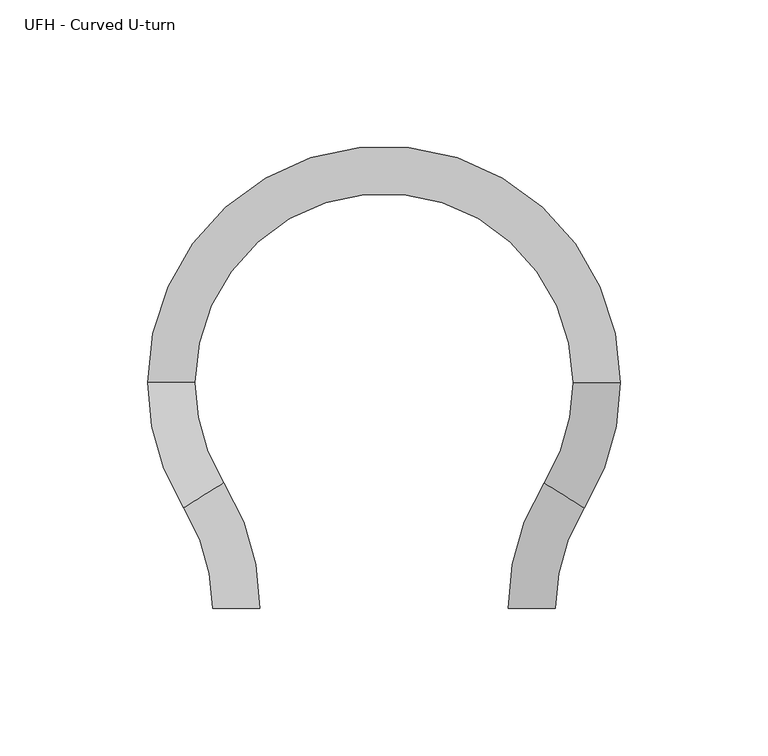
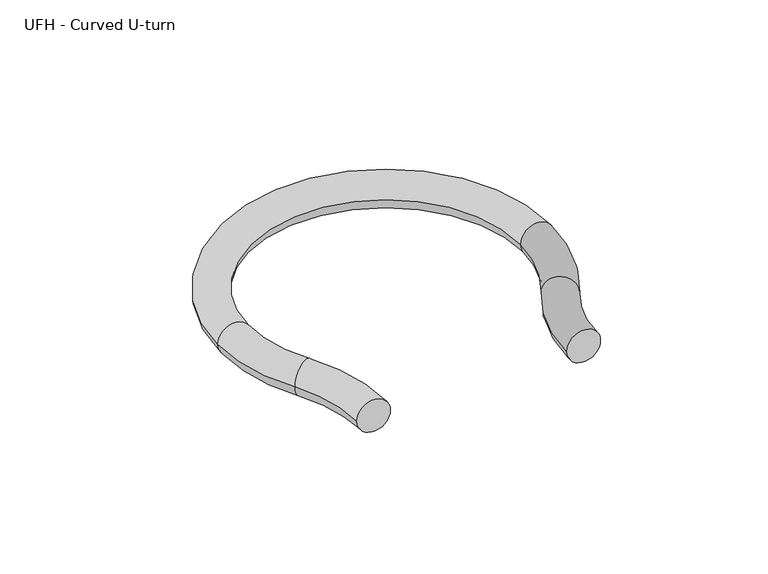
"""IFC4 building model written with IfcOpenShell, lengths in millimetres: pipe fitting geometry, UFH - Curved U-turn : Superpipe 2+ UFH Curved U-turn  - VA100."""

from ifc_helpers import new_model, si_unit, point, frame, origin, place, context, project, spatial, circle_curve, ellipse_curve, trimmed, source, transform, mapped, element, save
from ifc_brep_helpers import plane_surface, revolved_surface, advanced_brep


def ufh_curved_u_turn_f1e66ce9(model_context):
    return source(origin(), model_context, "Body", "AdvancedBrep", [
        advanced_brep(
        [(8.0, 0.0, 0.0), (-8.0, 0.0, 0.0), (-17.7777778, 33.9992738, 0.0), (-4.2222222, 42.4990922, 0.0), (-30.0, 76.498366, 0.0), (-14.0, 76.498366, 0.0), (130.0, 76.498366, 0.0), (114.0, 76.498366, 0.0), (117.7777778, 33.9992738, 0.0), (104.2222222, 42.4990922, 0.0), (92.0, 0.0, 0.0), (108.0, 0.0, 0.0)],
        [
            (0, 1, circle_curve(frame((0.0, 0.0, 0.0), z_axis=(0.0, -1.0, 0.0), x_axis=(-1.0, 0.0, 0.0)), 8.0)),
            (1, 0, circle_curve(frame((0.0, 0.0, 0.0), z_axis=(0.0, -1.0, 0.0), x_axis=(-1.0, 0.0, 0.0)), 8.0)),
            (2, 1, circle_curve(frame((-72.0, 0.0, 0.0), z_axis=(0.0, 0.0, -1.0), x_axis=(1.0, 0.0, 0.0)), 64.0)),
            (0, 3, circle_curve(frame((-72.0, 0.0, 0.0), z_axis=(0.0, 0.0, 1.0), x_axis=(1.0, 0.0, 0.0)), 80.0)),
            (3, 2, circle_curve(frame((-11.0, 38.249183, 0.0), z_axis=(0.531238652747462, -0.8472222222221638, 0.0), x_axis=(-0.8472222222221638, -0.531238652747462, 0.0)), 8.0)),
            (2, 3, circle_curve(frame((-11.0, 38.249183, 0.0), z_axis=(0.5312386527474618, -0.8472222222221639, 0.0), x_axis=(-0.8472222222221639, -0.5312386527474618, 0.0)), 8.0)),
            (4, 2, circle_curve(frame((50.0, 76.498366, 0.0), z_axis=(0.0, 0.0, 1.0), x_axis=(-0.8472222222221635, -0.5312386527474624, 0.0)), 80.0)),
            (3, 5, circle_curve(frame((50.0, 76.498366, 0.0), z_axis=(0.0, 0.0, -1.0), x_axis=(-0.8472222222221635, -0.5312386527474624, 0.0)), 64.0)),
            (5, 4, circle_curve(frame((-22.0, 76.498366, 0.0), z_axis=(0.0, -1.0, 0.0), x_axis=(-1.0, 0.0, 0.0)), 8.0)),
            (4, 5, circle_curve(frame((-22.0, 76.498366, 0.0), z_axis=(0.0, -1.0, 0.0), x_axis=(-1.0, 0.0, 0.0)), 8.0)),
            (6, 4, circle_curve(frame((50.0, 76.498366, 0.0), z_axis=(0.0, 0.0, 1.0), x_axis=(-1.0, 0.0, 0.0)), 80.0)),
            (5, 7, circle_curve(frame((50.0, 76.498366, 0.0), z_axis=(0.0, 0.0, -1.0), x_axis=(-1.0, 0.0, 0.0)), 64.0)),
            (7, 6, circle_curve(frame((122.0, 76.498366, 0.0), z_axis=(0.0, 1.0, 0.0), x_axis=(1.0, 0.0, 0.0)), 8.0)),
            (6, 7, circle_curve(frame((122.0, 76.498366, 0.0), z_axis=(0.0, 1.0, 0.0), x_axis=(1.0, 0.0, 0.0)), 8.0)),
            (8, 6, circle_curve(frame((50.0, 76.498366, 0.0), z_axis=(0.0, 0.0, 1.0), x_axis=(1.0, 0.0, 0.0)), 80.0)),
            (7, 9, circle_curve(frame((50.0, 76.498366, 0.0), z_axis=(0.0, 0.0, -1.0), x_axis=(1.0, 0.0, 0.0)), 64.0)),
            (9, 8, circle_curve(frame((111.0, 38.249183, 0.0), z_axis=(0.531238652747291, 0.8472222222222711, 0.0), x_axis=(0.8472222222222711, -0.531238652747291, 0.0)), 8.0)),
            (8, 9, circle_curve(frame((111.0, 38.249183, 0.0), z_axis=(0.5312386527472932, 0.8472222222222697, 0.0), x_axis=(0.8472222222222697, -0.5312386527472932, 0.0)), 8.0)),
            (10, 11, circle_curve(frame((100.0, 0.0, 0.0), z_axis=(0.0, -1.0, 0.0), x_axis=(1.0, 0.0, 0.0)), 8.0)),
            (11, 10, circle_curve(frame((100.0, 0.0, 0.0), z_axis=(0.0, -1.0, 0.0), x_axis=(1.0, 0.0, 0.0)), 8.0)),
            (11, 8, circle_curve(frame((172.0, 0.0, 0.0), z_axis=(0.0, 0.0, -1.0), x_axis=(-0.8472222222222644, 0.5312386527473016, 0.0)), 64.0)),
            (9, 10, circle_curve(frame((172.0, 0.0, 0.0), z_axis=(0.0, 0.0, 1.0), x_axis=(-0.8472222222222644, 0.5312386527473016, 0.0)), 80.0)),
        ],
        [
            plane_surface(frame((0.0, 0.0, 0.0), z_axis=(0.0, -1.0, 0.0), x_axis=(0.0, 0.0, 1.0))),
            revolved_surface(trimmed(ellipse_curve(frame((0.0, 0.0, 0.0), z_axis=(0.0, -1.0, 0.0), x_axis=(-1.0, 0.0, 0.0)), 8.0, 8.0), [point((8.0, 0.0, 0.0))], [point((-8.0, 0.0, 0.0))], True, "CARTESIAN"), (-72.0, 0.0, 0.0), (0.0, 0.0, 1.0)),
            revolved_surface(trimmed(ellipse_curve(frame((0.0, 0.0, 0.0), z_axis=(0.0, -1.0, 0.0), x_axis=(-1.0, 0.0, 0.0)), 8.0, 8.0), [point((-8.0, 0.0, 0.0))], [point((8.0, 0.0, 0.0))], True, "CARTESIAN"), (-72.0, 0.0, 0.0), (0.0, 0.0, 1.0)),
            revolved_surface(trimmed(ellipse_curve(frame((-11.0, 38.249183, 0.0), z_axis=(0.5312386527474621, -0.8472222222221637, 0.0), x_axis=(-0.8472222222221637, -0.5312386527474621, 0.0)), 8.0, 8.0), [point((-4.2222222, 42.4990922, 0.0))], [point((-17.7777778, 33.9992738, 0.0))], True, "CARTESIAN"), (50.0, 76.498366, 0.0), (0.0, 0.0, -1.0)),
            revolved_surface(trimmed(ellipse_curve(frame((-11.0, 38.249183, 0.0), z_axis=(0.5312386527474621, -0.8472222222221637, 0.0), x_axis=(-0.8472222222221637, -0.5312386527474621, 0.0)), 8.0, 8.0), [point((-17.7777778, 33.9992738, 0.0))], [point((-4.2222222, 42.4990922, 0.0))], True, "CARTESIAN"), (50.0, 76.498366, 0.0), (0.0, 0.0, -1.0)),
            revolved_surface(trimmed(ellipse_curve(frame((-22.0, 76.498366, 0.0), z_axis=(0.0, -1.0, 0.0), x_axis=(-1.0, 0.0, 0.0)), 8.0, 8.0), [point((-14.0, 76.498366, 0.0))], [point((-30.0, 76.498366, 0.0))], True, "CARTESIAN"), (50.0, 76.498366, 0.0), (0.0, 0.0, -1.0)),
            revolved_surface(trimmed(ellipse_curve(frame((-22.0, 76.498366, 0.0), z_axis=(0.0, -1.0, 0.0), x_axis=(-1.0, 0.0, 0.0)), 8.0, 8.0), [point((-30.0, 76.498366, 0.0))], [point((-14.0, 76.498366, 0.0))], True, "CARTESIAN"), (50.0, 76.498366, 0.0), (0.0, 0.0, -1.0)),
            revolved_surface(trimmed(ellipse_curve(frame((122.0, 76.498366, 0.0), z_axis=(0.0, 1.0, 0.0), x_axis=(1.0, 0.0, 0.0)), 8.0, 8.0), [point((114.0, 76.498366, 0.0))], [point((130.0, 76.498366, 0.0))], True, "CARTESIAN"), (50.0, 76.498366, 0.0), (0.0, 0.0, -1.0)),
            revolved_surface(trimmed(ellipse_curve(frame((122.0, 76.498366, 0.0), z_axis=(0.0, 1.0, 0.0), x_axis=(1.0, 0.0, 0.0)), 8.0, 8.0), [point((130.0, 76.498366, 0.0))], [point((114.0, 76.498366, 0.0))], True, "CARTESIAN"), (50.0, 76.498366, 0.0), (0.0, 0.0, -1.0)),
            plane_surface(frame((100.0, 0.0, 0.0), z_axis=(0.0, -1.0, 0.0), x_axis=(0.0, 0.0, 1.0))),
            revolved_surface(trimmed(ellipse_curve(frame((111.0, 38.249183, 0.0), z_axis=(0.531238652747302, 0.8472222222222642, 0.0), x_axis=(0.8472222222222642, -0.531238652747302, 0.0)), 8.0, 8.0), [point((104.2222222, 42.4990922, 0.0))], [point((117.7777778, 33.9992738, 0.0))], True, "CARTESIAN"), (172.0, 0.0, 0.0), (0.0, 0.0, 1.0)),
            revolved_surface(trimmed(ellipse_curve(frame((111.0, 38.249183, 0.0), z_axis=(0.531238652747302, 0.8472222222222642, 0.0), x_axis=(0.8472222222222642, -0.531238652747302, 0.0)), 8.0, 8.0), [point((117.7777778, 33.9992738, 0.0))], [point((104.2222222, 42.4990922, 0.0))], True, "CARTESIAN"), (172.0, 0.0, 0.0), (0.0, 0.0, 1.0)),
        ],
        [
            (0, [[1, 2]]),
            (1, [[3, -1, 4, 5]]),
            (2, [[-4, -2, -3, 6]]),
            (3, [[7, -5, 8, 9]]),
            (4, [[-8, -6, -7, 10]]),
            (5, [[11, -9, 12, 13]]),
            (6, [[-12, -10, -11, 14]]),
            (7, [[15, -13, 16, 17]]),
            (8, [[-16, -14, -15, 18]]),
            (9, [[19, 20]]),
            (10, [[21, -17, 22, -20]]),
            (11, [[-22, -18, -21, -19]]),
        ],
    ),
    ])


if __name__ == "__main__":
    model = new_model("IFC4")
    model_context = context("Model", 3, world=origin())
    ifc_project = project(units=[si_unit("LENGTHUNIT", "METRE", prefix="MILLI")], contexts=[model_context])
    site = spatial("IfcSite", under=ifc_project)
    building = spatial("IfcBuilding", under=site)
    placement = place(None, origin())
    ufh_curved_u_turn_shape = ufh_curved_u_turn_f1e66ce9(model_context)
    element("IfcPipeFitting", 1, ObjectType="UFH - Curved U-turn : Superpipe 2+ UFH Curved U-turn  - VA100", at=placement, inside=building, context=model_context, shape_type="MappedRepresentation", body=[
        mapped(ufh_curved_u_turn_shape, transform((0.0, 0.0, 0.0), x_axis=(1.0, 0.0, 0.0), y_axis=(0.0, 1.0, 0.0), z_axis=(0.0, 0.0, 1.0))),
    ])
    save(model, "model.ifc")
